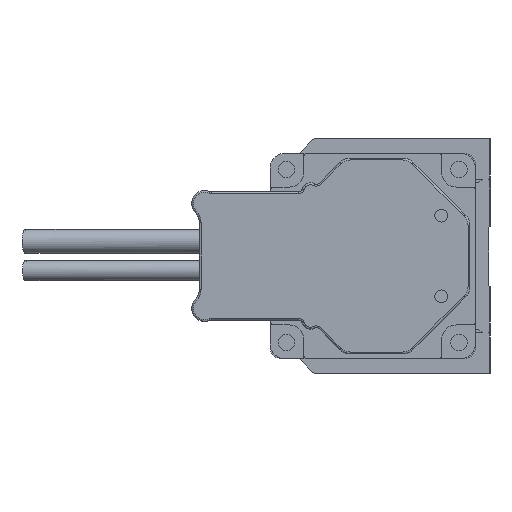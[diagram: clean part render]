
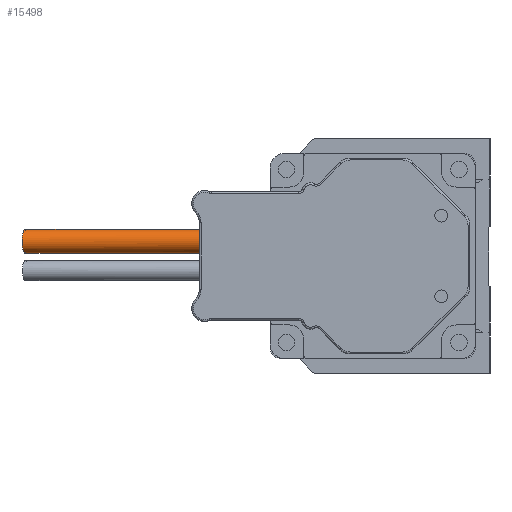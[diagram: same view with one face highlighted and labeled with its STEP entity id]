
A CAD part, left-side view. The second image highlights one B-rep face of the part: STEP entity #15498.
In plain terms, the highlighted cylindrical face has radius 3.25 mm (diameter 6.5 mm), a full revolution.
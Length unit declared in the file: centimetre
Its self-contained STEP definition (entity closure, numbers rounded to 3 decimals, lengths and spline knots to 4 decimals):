
#55=ELLIPSE('',#25625,0.335,0.325);
#1658=CIRCLE('',#25630,0.325);
#2976=VERTEX_POINT('',#23799);
#2979=VERTEX_POINT('',#23807);
#8143=EDGE_CURVE('',#2976,#2976,#55,.T.);
#8146=EDGE_CURVE('',#2979,#2979,#1658,.T.);
#12147=ORIENTED_EDGE('',*,*,#8143,.T.);
#12148=ORIENTED_EDGE('',*,*,#8146,.F.);
#13658=EDGE_LOOP('',(#12147));
#13659=EDGE_LOOP('',(#12148));
#14633=FACE_BOUND('',#13658,.T.);
#14634=FACE_BOUND('',#13659,.T.);
#15498=ADVANCED_FACE('',(#14633,#14634),#15791,.T.);
#15791=CYLINDRICAL_SURFACE('',#25629,0.325);
#19082=DIRECTION('',(0.,-0.97,-0.243));
#19083=DIRECTION('',(0.,0.081,-0.325));
#19090=DIRECTION('',(0.,1.,0.));
#19091=DIRECTION('',(0.325,0.,0.));
#19092=DIRECTION('',(0.,-1.,0.));
#19093=DIRECTION('',(0.325,0.,0.));
#23798=CARTESIAN_POINT('',(-0.4,9.4871,-4.5));
#23799=CARTESIAN_POINT('',(-0.4,9.4059,-4.175));
#23805=CARTESIAN_POINT('',(-0.4,4.7322,-4.5));
#23806=CARTESIAN_POINT('',(-0.4,4.7322,-4.5));
#23807=CARTESIAN_POINT('',(-0.075,4.7322,-4.5));
#25625=AXIS2_PLACEMENT_3D('',#23798,#19082,#19083);
#25629=AXIS2_PLACEMENT_3D('',#23805,#19090,#19091);
#25630=AXIS2_PLACEMENT_3D('',#23806,#19092,#19093);
